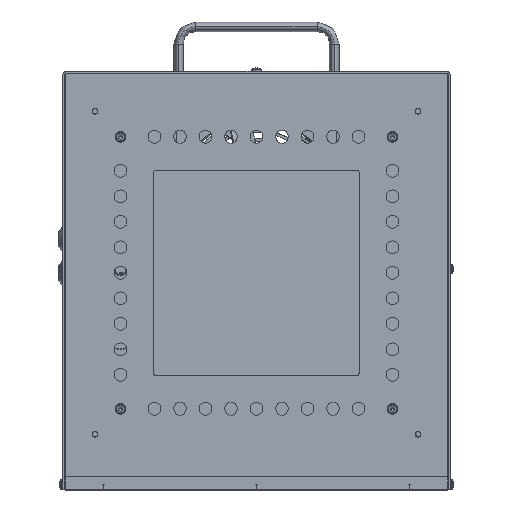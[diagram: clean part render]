
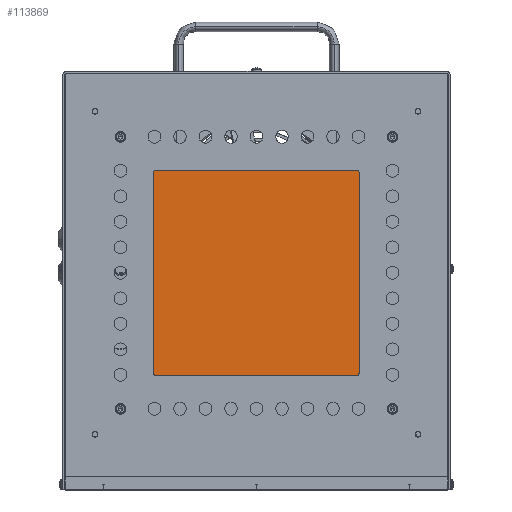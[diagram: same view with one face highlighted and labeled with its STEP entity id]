
A CAD part, top view. The second image highlights one B-rep face of the part: STEP entity #113869.
In plain terms, the highlighted planar face has unit normal (0, 0, 1).
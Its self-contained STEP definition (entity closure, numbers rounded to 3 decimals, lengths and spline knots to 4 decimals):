
#700 = DIRECTION ( 'NONE',  ( -1., 0., 0. ) ) ;
#12503 = CARTESIAN_POINT ( 'NONE',  ( -3.5, 9.875, 2.062 ) ) ;
#12684 = VECTOR ( 'NONE', #12701, 39.3701 ) ;
#12701 = DIRECTION ( 'NONE',  ( 0., 1., 0. ) ) ;
#17114 = VERTEX_POINT ( 'NONE', #30725 ) ;
#17376 = VERTEX_POINT ( 'NONE', #123911 ) ;
#24041 = PLANE ( 'NONE',  #58210 ) ;
#26632 = VECTOR ( 'NONE', #700, 39.3701 ) ;
#30725 = CARTESIAN_POINT ( 'NONE',  ( 3.5, 2.875, 2.062 ) ) ;
#37701 = VECTOR ( 'NONE', #92445, 39.3701 ) ;
#40924 = LINE ( 'NONE', #12503, #67004 ) ;
#41905 = ORIENTED_EDGE ( 'NONE', *, *, #51118, .T. ) ;
#43718 = CARTESIAN_POINT ( 'NONE',  ( -3.5, 2.875, 2.062 ) ) ;
#44566 = CARTESIAN_POINT ( 'NONE',  ( 3.5, 9.875, 2.062 ) ) ;
#47699 = ORIENTED_EDGE ( 'NONE', *, *, #53424, .T. ) ;
#51118 = EDGE_CURVE ( 'NONE', #71002, #17114, #89866, .T. ) ;
#52586 = LINE ( 'NONE', #59301, #26632 ) ;
#53424 = EDGE_CURVE ( 'NONE', #17114, #78719, #67771, .T. ) ;
#58210 = AXIS2_PLACEMENT_3D ( 'NONE', #43718, #122147, #63422 ) ;
#59301 = CARTESIAN_POINT ( 'NONE',  ( -3.5, 9.875, 2.062 ) ) ;
#60992 = CARTESIAN_POINT ( 'NONE',  ( 3.5, 9.875, 2.062 ) ) ;
#63422 = DIRECTION ( 'NONE',  ( 1., 0., 0. ) ) ;
#67004 = VECTOR ( 'NONE', #71093, 39.3701 ) ;
#67771 = LINE ( 'NONE', #60992, #12684 ) ;
#71002 = VERTEX_POINT ( 'NONE', #94220 ) ;
#71093 = DIRECTION ( 'NONE',  ( 0., -1., 0. ) ) ;
#73059 = CARTESIAN_POINT ( 'NONE',  ( -3.5, 2.875, 2.062 ) ) ;
#78627 = ORIENTED_EDGE ( 'NONE', *, *, #112957, .T. ) ;
#78719 = VERTEX_POINT ( 'NONE', #44566 ) ;
#89866 = LINE ( 'NONE', #73059, #37701 ) ;
#91389 = EDGE_LOOP ( 'NONE', ( #124119, #41905, #47699, #78627 ) ) ;
#92445 = DIRECTION ( 'NONE',  ( 1., 0., 0. ) ) ;
#94220 = CARTESIAN_POINT ( 'NONE',  ( -3.5, 2.875, 2.062 ) ) ;
#99499 = FACE_OUTER_BOUND ( 'NONE', #91389, .T. ) ;
#109579 = EDGE_CURVE ( 'NONE', #17376, #71002, #40924, .T. ) ;
#112957 = EDGE_CURVE ( 'NONE', #78719, #17376, #52586, .T. ) ;
#113869 = ADVANCED_FACE ( 'NONE', ( #99499 ), #24041, .T. ) ;
#122147 = DIRECTION ( 'NONE',  ( 0., 0., 1. ) ) ;
#123911 = CARTESIAN_POINT ( 'NONE',  ( -3.5, 9.875, 2.062 ) ) ;
#124119 = ORIENTED_EDGE ( 'NONE', *, *, #109579, .T. ) ;
